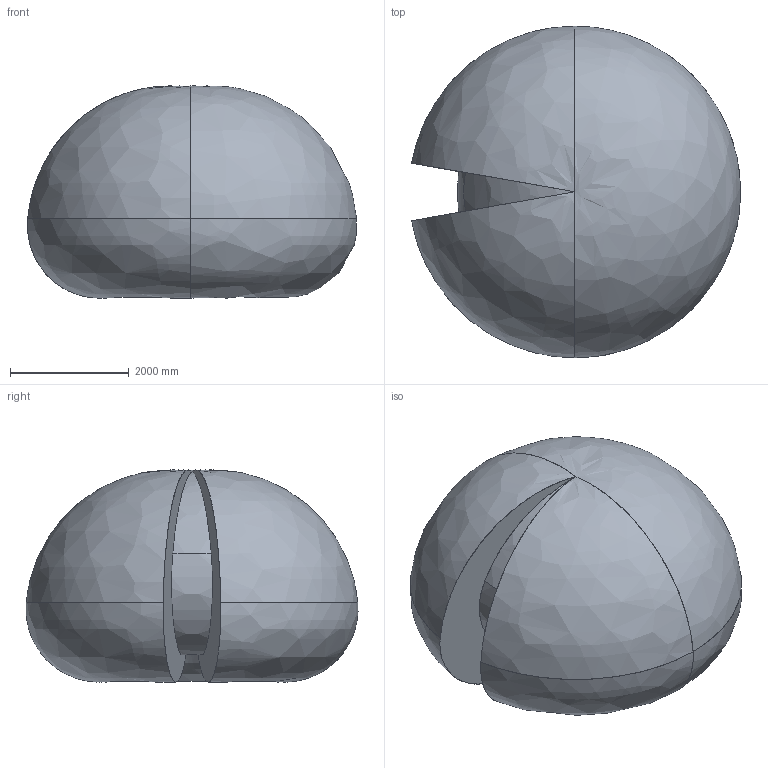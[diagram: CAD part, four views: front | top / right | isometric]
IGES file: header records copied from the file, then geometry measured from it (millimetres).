
Start section: SolidWorks IGES file using analytic representation for surfaces
Global section: file name: C:\Data\SAP_DOC\IRB6740_lightweight\6740_ASM\IRB6740_310kg-280_OC_02_SW_J\IRB6740_310kg-280_OC_02_IGES_J\IRB6740_310kg-280_OC_00_Working-space.igs; native system: SolidWorks 2024; preprocessor: SolidWorks 2024; author: SEJAOLS6; date: 260506.155202; units: millimetre
Bounding box: 5549.13 x 5597.52 x 3575.99 mm (x, y, z)
Surface area: 97156350.1 mm2 (no closed solid volume)
Topology: 0 solids, 0 shells, 18 faces, 434 edges, 426 vertices
Faces by surface type: bspline 18
